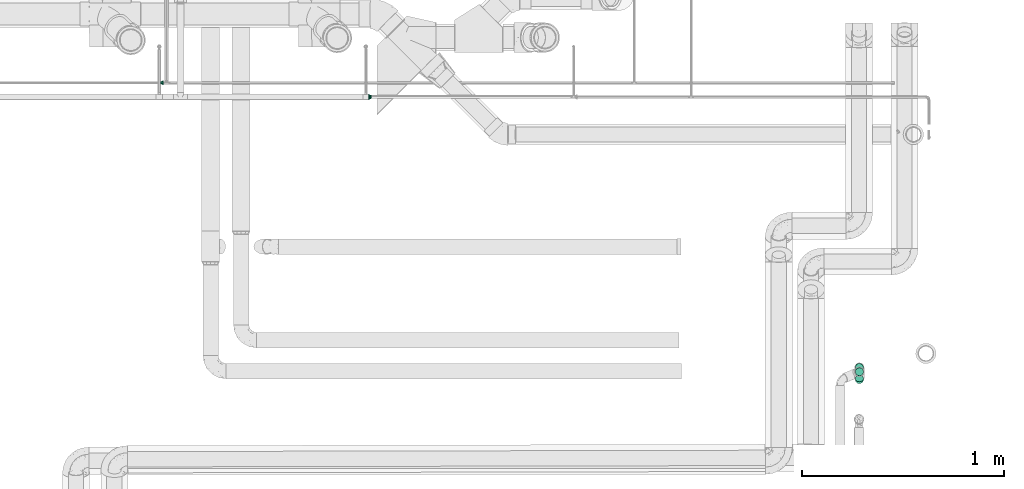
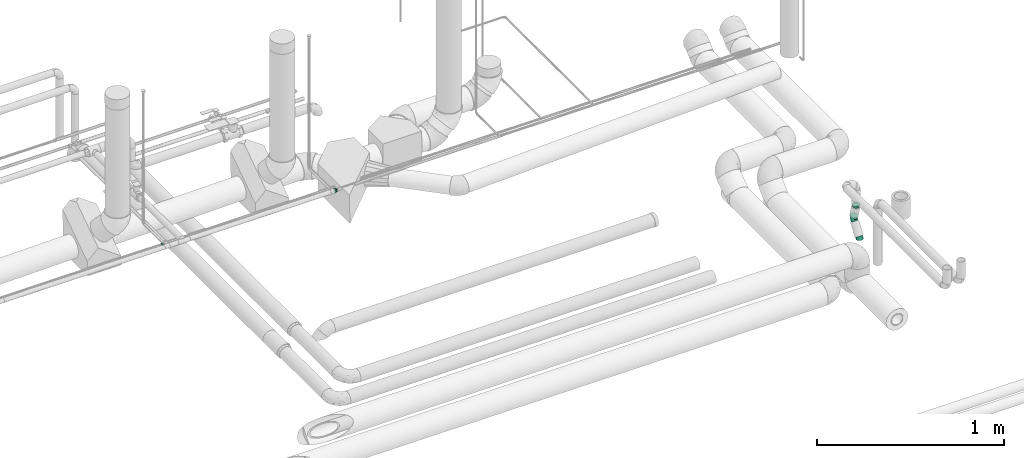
# One storey, part 149 of 156: 5 flow fittings.
"""IFC2X3 building model written with IfcOpenShell, lengths in millimetres."""

from ifc_helpers import new_model, entity, si_unit, converted_unit, derived_unit, direction, frame, origin_with_axes, place, context, subcontext, project, spatial, open_shell, surface_model, source, transform, mapped, type_object, element, save


model = new_model("IFC2X3")

# Units and contexts
model_context = context("Model", 3, precision=0.01, world=frame((0.0, 4.29681676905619e-09, 0.0)), true_north=direction((4.01073788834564e-13, 1.0)))
plan_context = context("Plan", 3, precision=0.01, world=frame((0.0, 4.29681676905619e-09, 0.0)), true_north=direction((4.01073788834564e-13, 1.0)))
body_context = subcontext(model_context, "Body", "Model", "MODEL_VIEW")
ifc_project = project(units=[converted_unit("PLANEANGLEUNIT", "DEGREE", entity("IfcPositiveLengthMeasure", 0.0174532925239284), si_unit("PLANEANGLEUNIT", "RADIAN"), dimensions=[0, 0, 0, 0, 0, 0, 0]), si_unit("AREAUNIT", "SQUARE_METRE"), si_unit("LENGTHUNIT", "METRE", prefix="MILLI"), si_unit("MASSUNIT", "GRAM", prefix="KILO"), si_unit("POWERUNIT", "WATT"), si_unit("PRESSUREUNIT", "PASCAL", prefix="KILO"), si_unit("FORCEUNIT", "NEWTON", prefix="KILO"), si_unit("ELECTRICVOLTAGEUNIT", "VOLT"), si_unit("ELECTRICCURRENTUNIT", "AMPERE"), si_unit("THERMODYNAMICTEMPERATUREUNIT", "DEGREE_CELSIUS"), si_unit("TIMEUNIT", "SECOND"), si_unit("VOLUMEUNIT", "CUBIC_METRE"), derived_unit("LINEARVELOCITYUNIT", [(si_unit("LENGTHUNIT", "METRE"), 1), (si_unit("TIMEUNIT", "SECOND"), -1)]), derived_unit("VOLUMETRICFLOWRATEUNIT", [(si_unit("VOLUMEUNIT", "CUBIC_METRE"), 1), (si_unit("TIMEUNIT", "SECOND"), -1)]), derived_unit("THERMALTRANSMITTANCEUNIT", [(si_unit("POWERUNIT", "WATT"), 1), (si_unit("THERMODYNAMICTEMPERATUREUNIT", "KELVIN"), -1), (si_unit("AREAUNIT", "SQUARE_METRE"), -1)]), derived_unit("SOUNDPRESSUREUNIT", [(si_unit("PRESSUREUNIT", "PASCAL"), 1)])], contexts=[model_context, plan_context])

# Site, building, storey
site_placement = place(None, frame((0.0, -4.29681676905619e-09, 0.0), z_axis=(0.0, 0.0, 1.0), x_axis=(1.0, 0.0, 0.0)))
site = spatial("IfcSite", under=ifc_project, at=site_placement, CompositionType="ELEMENT")
building_placement = place(site_placement, frame((0.0, 4.29681676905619e-09, 0.0), z_axis=(0.0, 0.0, 1.0), x_axis=(1.0, 0.0, 0.0)))
building = spatial("IfcBuilding", under=site, at=building_placement, Name="mc-building", CompositionType="ELEMENT")
storey_placement = place(building_placement, frame((0.0, 0.0, 205200.0), z_axis=(0.0, 0.0, 1.0), x_axis=(1.0, 0.0, 0.0)))
storey = spatial("IfcBuildingStorey", under=building, at=storey_placement, Name="Nivå D + 1,2 m", CompositionType="ELEMENT", Elevation=205200.0)

# Flow fittings
pipe_fitting_type_1 = type_object("IfcPipeFittingType", Name="magi_pipe_fe_reducer_centric_short_001", PredefinedType="TRANSITION")
shared_shape_1 = source(origin_with_axes(), body_context, "Body", "SurfaceModel", [
    surface_model("IfcShellBasedSurfaceModel", [(-2.0, 9.89949, 9.89949), (-2.0, 0.0, 14.0), (-2.0, 3.62347, 13.52296), (-2.0, 7.0, 12.12436), (-2.0, 12.12436, 7.0), (-2.0, 13.52296, 3.62347), (-2.0, -3.62347, 13.52296), (-2.0, -12.12436, -7.0), (-2.0, -9.89949, 9.89949), (-2.0, -7.0, 12.12436), (-2.0, -13.52296, 3.62347), (-2.0, -12.12436, 7.0), (-2.0, -14.0, 0.0), (-2.0, 13.52296, -3.62347), (-2.0, 9.89949, -9.89949), (-2.0, 12.12436, -7.0), (-2.0, 7.0, -12.12436), (-2.0, 3.62347, -13.52296), (-2.0, -7.0, -12.12436), (-2.0, -9.89949, -9.89949), (-2.0, -13.52296, -3.62347), (-2.0, 0.0, -14.0), (-2.0, -3.62347, -13.52296), (-2.0, 14.0, 0.0), (0.0, 3.62347, -13.52296), (0.0, 7.0, -12.12436), (0.0, 9.89949, -9.89949), (0.0, 12.12436, -7.0), (0.0, 13.52296, -3.62347), (0.0, -7.0, -12.12436), (0.0, -12.12436, -7.0), (0.0, 14.0, 0.0), (0.0, 0.0, -14.0), (0.0, -3.62347, -13.52296), (0.0, -9.89949, -9.89949), (0.0, -13.52296, -3.62347), (0.0, 13.52296, 3.62347), (0.0, 12.12436, 7.0), (0.0, 9.89949, 9.89949), (0.0, 0.0, 14.0), (0.0, 3.62347, 13.52296), (0.0, 7.0, 12.12436), (0.0, -3.62347, 13.52296), (0.0, -13.52296, 3.62347), (0.0, -9.89949, 9.89949), (0.0, -12.12436, 7.0), (0.0, -14.0, 0.0), (0.0, -7.0, 12.12436), (10.0, -4.5, -7.79423), (10.0, 4.5, -7.79423), (10.0, 4.5, 7.79423), (10.0, -4.5, 7.79423), (12.0, 0.0, -9.0), (12.0, -4.5, -7.79423), (12.0, -2.32937, -8.69333), (12.0, -6.36396, -6.36396), (12.0, -8.69333, -2.32937), (12.0, -7.79423, -4.5), (12.0, 4.5, 7.79423), (12.0, 7.79423, 4.5), (12.0, 6.36396, 6.36396), (12.0, 4.5, -7.79423), (12.0, 2.32937, -8.69333), (12.0, 8.69333, -2.32937), (12.0, 6.36396, -6.36396), (12.0, 7.79423, -4.5), (12.0, 9.0, 0.0), (12.0, 8.69333, 2.32937), (12.0, -9.0, 0.0), (12.0, 2.32937, 8.69333), (12.0, 0.0, 9.0), (12.0, -2.32937, 8.69333), (12.0, -8.69333, 2.32937), (12.0, -6.36396, 6.36396), (12.0, -7.79423, 4.5), (12.0, -4.5, 7.79423), (10.0, 0.0, 9.0), (10.0, 2.32937, 8.69333), (10.0, 7.79423, 4.5), (10.0, -9.0, 0.0), (10.0, 6.36396, 6.36396), (10.0, -8.69333, -2.32937), (10.0, -2.32937, 8.69333), (10.0, -6.36396, 6.36396), (10.0, -8.69333, 2.32937), (10.0, -7.79423, 4.5), (10.0, 8.69333, 2.32937), (10.0, 9.0, 0.0), (10.0, 2.32937, -8.69333), (10.0, 8.69333, -2.32937), (10.0, 6.36396, -6.36396), (10.0, 7.79423, -4.5), (10.0, -6.36396, -6.36396), (10.0, -7.79423, -4.5), (10.0, 0.0, -9.0), (10.0, -2.32937, -8.69333)], [open_shell([[[0, 1, 2]], [[0, 2, 3]], [[0, 4, 5]], [[0, 5, 1]], [[6, 1, 7]], [[6, 8, 9]], [[8, 6, 10]], [[8, 10, 11]], [[12, 10, 7]], [[7, 10, 6]], [[7, 1, 5]], [[7, 5, 13]], [[14, 13, 15]], [[14, 16, 17]], [[13, 14, 18]], [[17, 18, 14]], [[7, 18, 19]], [[20, 12, 7]], [[18, 21, 22]], [[18, 7, 13]], [[21, 18, 17]], [[5, 23, 13]], [[24, 25, 26]], [[24, 26, 27]], [[24, 28, 29]], [[28, 24, 27]], [[30, 28, 31]], [[32, 29, 33]], [[32, 24, 29]], [[29, 30, 34]], [[28, 30, 29]], [[31, 35, 30]], [[31, 36, 35]], [[36, 37, 38]], [[36, 38, 39]], [[40, 39, 38]], [[40, 38, 41]], [[36, 39, 42]], [[43, 44, 45]], [[42, 43, 46]], [[44, 42, 47]], [[42, 44, 43]], [[46, 36, 42]], [[36, 46, 35]], [[20, 35, 12]], [[7, 30, 20]], [[29, 19, 18]], [[7, 19, 34]], [[33, 18, 22]], [[20, 30, 35]], [[35, 46, 12]], [[33, 29, 18]], [[34, 19, 29]], [[34, 30, 7]], [[32, 33, 22]], [[22, 21, 32]], [[17, 24, 21]], [[16, 25, 17]], [[27, 14, 15]], [[16, 14, 26]], [[28, 15, 13]], [[16, 26, 25]], [[25, 24, 17]], [[31, 28, 13]], [[27, 15, 28]], [[27, 26, 14]], [[23, 31, 13]], [[21, 24, 32]], [[5, 36, 23]], [[4, 37, 5]], [[41, 0, 3]], [[4, 0, 38]], [[40, 3, 2]], [[5, 37, 36]], [[36, 31, 23]], [[40, 41, 3]], [[38, 0, 41]], [[38, 37, 4]], [[39, 40, 2]], [[2, 1, 39]], [[6, 42, 1]], [[9, 47, 6]], [[45, 8, 11]], [[9, 8, 44]], [[43, 11, 10]], [[9, 44, 47]], [[47, 42, 6]], [[46, 43, 10]], [[45, 11, 43]], [[45, 44, 8]], [[12, 46, 10]], [[1, 42, 39]], [[39, 38, 44]], [[46, 44, 38]], [[34, 46, 32]], [[26, 38, 31]], [[48, 32, 49]], [[50, 39, 51]], [[52, 53, 54]], [[55, 56, 57]], [[58, 59, 60]], [[38, 26, 46]], [[32, 46, 26]], [[61, 55, 62]], [[63, 61, 64]], [[55, 61, 63]], [[63, 64, 65]], [[59, 56, 63]], [[52, 62, 53]], [[53, 62, 55]], [[63, 56, 55]], [[63, 66, 67]], [[68, 56, 59]], [[58, 69, 70]], [[58, 70, 59]], [[71, 59, 70]], [[72, 73, 74]], [[73, 72, 68]], [[73, 71, 75]], [[73, 68, 59]], [[59, 71, 73]], [[59, 63, 67]], [[76, 77, 50]], [[76, 50, 78]], [[76, 78, 79]], [[78, 50, 80]], [[81, 79, 78]], [[82, 83, 51]], [[82, 76, 83]], [[83, 84, 85]], [[84, 83, 79]], [[76, 79, 83]], [[78, 86, 87]], [[88, 87, 89]], [[90, 89, 91]], [[49, 88, 89]], [[49, 89, 90]], [[87, 88, 48]], [[81, 92, 93]], [[81, 87, 92]], [[48, 94, 95]], [[48, 92, 87]], [[94, 48, 88]], [[87, 81, 78]], [[81, 56, 79]], [[93, 57, 81]], [[53, 92, 48]], [[92, 55, 93]], [[48, 95, 54]], [[81, 57, 56]], [[56, 68, 79]], [[54, 53, 48]], [[55, 92, 53]], [[55, 57, 93]], [[52, 54, 95]], [[95, 94, 52]], [[88, 62, 94]], [[49, 61, 88]], [[65, 90, 91]], [[49, 90, 64]], [[63, 91, 89]], [[49, 64, 61]], [[61, 62, 88]], [[66, 63, 89]], [[65, 91, 63]], [[65, 64, 90]], [[87, 66, 89]], [[94, 62, 52]], [[86, 67, 87]], [[78, 59, 86]], [[58, 80, 50]], [[78, 80, 60]], [[69, 50, 77]], [[86, 59, 67]], [[67, 66, 87]], [[69, 58, 50]], [[60, 80, 58]], [[60, 59, 78]], [[70, 69, 77]], [[77, 76, 70]], [[82, 71, 76]], [[51, 75, 82]], [[74, 83, 85]], [[51, 83, 73]], [[72, 85, 84]], [[51, 73, 75]], [[75, 71, 82]], [[68, 72, 84]], [[74, 85, 72]], [[74, 73, 83]], [[79, 68, 84]], [[76, 71, 70]], [[50, 51, 87]], [[87, 51, 48]], [[48, 49, 87]], [[48, 51, 79]], [[87, 49, 26]], [[26, 31, 87]], [[49, 32, 26]], [[48, 79, 34]], [[48, 34, 32]], [[34, 79, 46]], [[79, 51, 44]], [[44, 46, 79]], [[51, 39, 44]], [[50, 87, 38]], [[50, 38, 39]], [[38, 87, 31]]])]),
])
flow_fitting_1_placement = place(storey_placement, frame((327667.53293, 462313.63355, 4318.0), z_axis=(0.0, 0.0, 1.0), x_axis=(1.0, 0.0, 0.0)))
element("IfcFlowFitting", 1, at=flow_fitting_1_placement, inside=storey, type_object=pipe_fitting_type_1, Name="magi_pipe_fe_reducer_centric_short_001", context=body_context, shape_type="MappedRepresentation", body=[
    mapped(shared_shape_1, transform((0.0, 0.0, 0.0), scale=1.0)),
])
shared_shape_2 = source(origin_with_axes(), body_context, "Body", "SurfaceModel", [
    surface_model("IfcShellBasedSurfaceModel", [(-2.0, 2.76936, 10.33541), (-2.0, -10.33541, -2.76936), (-2.0, 0.0, 10.7), (-2.0, 5.35, 9.26647), (-2.0, 7.56604, 7.56604), (-2.0, 9.26647, 5.35), (-2.0, 10.33541, 2.76936), (-2.0, -10.33541, 2.76936), (-2.0, -2.76936, 10.33541), (-2.0, -7.56604, 7.56604), (-2.0, -5.35, 9.26647), (-2.0, -9.26647, 5.35), (-2.0, -10.7, 0.0), (-2.0, 10.33541, -2.76936), (-2.0, 7.56604, -7.56604), (-2.0, 9.26647, -5.35), (-2.0, 5.35, -9.26647), (-2.0, 2.76936, -10.33541), (-2.0, -7.56604, -7.56604), (-2.0, -9.26647, -5.35), (-2.0, -5.35, -9.26647), (-2.0, 0.0, -10.7), (-2.0, -2.76936, -10.33541), (-2.0, 10.7, 0.0), (0.0, 5.35, -9.26647), (0.0, 0.0, -10.7), (0.0, 2.76936, -10.33541), (0.0, 10.33541, -2.76936), (0.0, 7.56604, -7.56604), (0.0, -10.33541, -2.76936), (0.0, 9.26647, -5.35), (0.0, 0.0, 10.7), (0.0, -5.35, -9.26647), (0.0, -2.76936, -10.33541), (0.0, -7.56604, -7.56604), (0.0, -9.26647, -5.35), (0.0, 10.7, 0.0), (0.0, 10.33541, 2.76936), (0.0, 9.26647, 5.35), (0.0, 7.56604, 7.56604), (0.0, 2.76936, 10.33541), (0.0, 5.35, 9.26647), (0.0, -7.56604, 7.56604), (0.0, -10.33541, 2.76936), (0.0, -9.26647, 5.35), (0.0, -10.7, 0.0), (0.0, -2.76936, 10.33541), (0.0, -5.35, 9.26647), (11.4, 1.55291, -5.79555), (11.4, 3.0, -5.19615), (11.4, 4.24264, -4.24264), (11.4, -5.79555, -1.55291), (11.4, 5.79555, -1.55291), (11.4, 5.19615, -3.0), (11.4, -6.0, 0.0), (11.4, 0.0, -6.0), (11.4, -3.0, -5.19615), (11.4, -1.55291, -5.79555), (11.4, -5.19615, -3.0), (11.4, -4.24264, -4.24264), (11.4, 6.0, 0.0), (11.4, 5.79555, 1.55291), (11.4, 5.19615, 3.0), (11.4, 4.24264, 4.24264), (11.4, 1.55291, 5.79555), (11.4, 3.0, 5.19615), (11.4, 0.0, 6.0), (11.4, -5.79555, 1.55291), (11.4, -1.55291, 5.79555), (11.4, -5.19615, 3.0), (11.4, -3.0, 5.19615), (11.4, -4.24264, 4.24264), (9.4, 1.55291, 5.79555), (9.4, -5.19615, 3.0), (9.4, 0.0, 6.0), (9.4, 4.24264, 4.24264), (9.4, 3.0, 5.19615), (9.4, 5.19615, 3.0), (9.4, 5.79555, 1.55291), (9.4, -5.79555, -1.55291), (9.4, -5.79555, 1.55291), (9.4, -3.0, 5.19615), (9.4, -4.24264, 4.24264), (9.4, -1.55291, 5.79555), (9.4, -6.0, 0.0), (9.4, 5.79555, -1.55291), (9.4, 4.24264, -4.24264), (9.4, 5.19615, -3.0), (9.4, 3.0, -5.19615), (9.4, 1.55291, -5.79555), (9.4, -5.19615, -3.0), (9.4, -3.0, -5.19615), (9.4, -4.24264, -4.24264), (9.4, 0.0, -6.0), (9.4, -1.55291, -5.79555), (9.4, 6.0, 0.0)], [open_shell([[[0, 1, 2]], [[3, 1, 0]], [[4, 5, 6]], [[4, 6, 3]], [[7, 2, 1]], [[8, 9, 10]], [[8, 2, 9]], [[9, 7, 11]], [[2, 7, 9]], [[7, 1, 12]], [[3, 6, 1]], [[1, 6, 13]], [[14, 13, 15]], [[13, 16, 1]], [[16, 13, 14]], [[17, 1, 16]], [[1, 18, 19]], [[18, 1, 20]], [[20, 21, 22]], [[20, 1, 17]], [[17, 21, 20]], [[13, 6, 23]], [[24, 25, 26]], [[27, 24, 28]], [[29, 24, 27]], [[27, 28, 30]], [[31, 29, 27]], [[25, 32, 33]], [[25, 24, 32]], [[34, 29, 35]], [[29, 34, 32]], [[24, 29, 32]], [[27, 36, 37]], [[37, 38, 39]], [[37, 39, 40]], [[31, 27, 40]], [[40, 39, 41]], [[31, 42, 29]], [[43, 42, 44]], [[45, 29, 43]], [[42, 46, 47]], [[43, 29, 42]], [[46, 42, 31]], [[40, 27, 37]], [[1, 29, 12]], [[19, 35, 1]], [[32, 18, 20]], [[19, 18, 34]], [[33, 20, 22]], [[1, 35, 29]], [[29, 45, 12]], [[33, 32, 20]], [[34, 18, 32]], [[34, 35, 19]], [[25, 33, 22]], [[22, 21, 25]], [[17, 26, 21]], [[16, 24, 17]], [[30, 14, 15]], [[16, 14, 28]], [[27, 15, 13]], [[16, 28, 24]], [[24, 26, 17]], [[36, 27, 13]], [[30, 15, 27]], [[30, 28, 14]], [[23, 36, 13]], [[21, 26, 25]], [[6, 37, 23]], [[5, 38, 6]], [[41, 4, 3]], [[5, 4, 39]], [[40, 3, 0]], [[6, 38, 37]], [[37, 36, 23]], [[40, 41, 3]], [[39, 4, 41]], [[39, 38, 5]], [[31, 40, 0]], [[0, 2, 31]], [[8, 46, 2]], [[10, 47, 8]], [[44, 9, 11]], [[10, 9, 42]], [[43, 11, 7]], [[10, 42, 47]], [[47, 46, 8]], [[45, 43, 7]], [[44, 11, 43]], [[44, 42, 9]], [[12, 45, 7]], [[2, 46, 31]], [[41, 45, 47]], [[45, 41, 24]], [[24, 32, 45]], [[24, 41, 36]], [[48, 49, 50]], [[51, 48, 50]], [[50, 52, 51]], [[52, 50, 53]], [[52, 54, 51]], [[55, 56, 57]], [[55, 48, 56]], [[56, 58, 59]], [[58, 56, 51]], [[48, 51, 56]], [[52, 60, 54]], [[61, 62, 63]], [[61, 63, 64]], [[61, 64, 54]], [[64, 63, 65]], [[54, 64, 66]], [[67, 68, 69]], [[67, 54, 66]], [[69, 70, 71]], [[70, 69, 68]], [[66, 68, 67]], [[61, 54, 60]], [[72, 73, 74]], [[75, 72, 76]], [[75, 77, 78]], [[75, 78, 72]], [[72, 79, 80]], [[81, 73, 82]], [[73, 81, 83]], [[74, 73, 83]], [[72, 80, 73]], [[80, 79, 84]], [[72, 78, 79]], [[79, 78, 85]], [[86, 85, 87]], [[86, 88, 89]], [[85, 86, 79]], [[89, 79, 86]], [[90, 91, 92]], [[91, 90, 79]], [[91, 93, 94]], [[91, 79, 89]], [[89, 93, 91]], [[85, 78, 95]], [[79, 51, 84]], [[90, 58, 79]], [[56, 92, 91]], [[90, 92, 59]], [[57, 91, 94]], [[79, 58, 51]], [[51, 54, 84]], [[57, 56, 91]], [[59, 92, 56]], [[59, 58, 90]], [[55, 57, 94]], [[94, 93, 55]], [[89, 48, 93]], [[88, 49, 89]], [[53, 86, 87]], [[88, 86, 50]], [[52, 87, 85]], [[88, 50, 49]], [[49, 48, 89]], [[60, 52, 85]], [[53, 87, 52]], [[53, 50, 86]], [[95, 60, 85]], [[93, 48, 55]], [[78, 61, 95]], [[77, 62, 78]], [[65, 75, 76]], [[77, 75, 63]], [[64, 76, 72]], [[78, 62, 61]], [[61, 60, 95]], [[64, 65, 76]], [[63, 75, 65]], [[63, 62, 77]], [[66, 64, 72]], [[72, 74, 66]], [[83, 68, 74]], [[81, 70, 83]], [[69, 82, 73]], [[81, 82, 71]], [[67, 73, 80]], [[81, 71, 70]], [[70, 68, 83]], [[54, 67, 80]], [[69, 73, 67]], [[69, 71, 82]], [[84, 54, 80]], [[74, 68, 66]], [[76, 81, 95]], [[95, 81, 91]], [[91, 88, 95]], [[91, 81, 84]], [[95, 88, 36]], [[24, 36, 88]], [[88, 91, 24]], [[91, 84, 32]], [[45, 32, 84]], [[91, 32, 24]], [[84, 81, 45]], [[47, 45, 81]], [[81, 76, 47]], [[76, 95, 41]], [[36, 41, 95]], [[76, 41, 47]]])]),
])
flow_fitting_2_placement = place(storey_placement, frame((326647.49724, 462383.7286, 4285.29988999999), z_axis=(0.0, 0.0, 1.0), x_axis=(-1.0, 0.0, 0.0)))
element("IfcFlowFitting", 2, at=flow_fitting_2_placement, inside=storey, type_object=pipe_fitting_type_1, Name="magi_pipe_fe_reducer_centric_short_001", context=body_context, shape_type="MappedRepresentation", body=[
    mapped(shared_shape_2, transform((0.0, 0.0, 0.0), scale=1.0)),
])
pipe_fitting_type_2 = type_object("IfcPipeFittingType", Name="magi_pipe_elbow_short_001", PredefinedType="BEND")
shared_shape_3 = source(origin_with_axes(), body_context, "Body", "SurfaceModel", [
    surface_model("IfcShellBasedSurfaceModel", [(-7.96036, 5.17638, -19.31852), (-7.96036, 0.0, -20.0), (-7.96036, 14.14214, -14.14214), (-7.96036, 10.0, -17.32051), (-7.96036, 19.31852, -5.17638), (-7.96036, 17.32051, -10.0), (-7.96036, -14.14214, -14.14214), (-7.96036, -20.0, 0.0), (-7.96036, 17.32051, 10.0), (-7.96036, -10.0, -17.32051), (-7.96036, -5.17638, -19.31852), (-7.96036, -19.31852, -5.17638), (-7.96036, -17.32051, -10.0), (-7.96036, 20.0, 0.0), (-7.96036, 19.31852, 5.17638), (-7.96036, 5.17638, 19.31852), (-7.96036, 10.0, 17.32051), (-7.96036, 14.14214, 14.14214), (-7.96036, -14.14214, 14.14214), (-7.96036, -19.31852, 5.17638), (-7.96036, -17.32051, 10.0), (-7.96036, -10.0, 17.32051), (-7.96036, -5.17638, 19.31852), (-7.96036, 0.0, 20.0), (1.93946, 16.11229, -14.14214), (7.35385, 3.04767, -20.0), (5.37204, 7.82965, -19.31852), (3.5253, 12.28575, -17.32051), (0.7226, 19.0485, -10.0), (-0.04235, 20.89427, -5.17638), (12.76824, -10.01696, -14.14214), (15.01095, -15.4285, 0.0), (9.33565, -1.73432, -19.31852), (11.1824, -6.19042, -17.32051), (13.9851, -12.95316, -10.0), (14.75004, -14.79894, -5.17638), (0.7226, 19.0485, 10.0), (-0.04235, 20.89427, 5.17638), (5.37204, 7.82965, 19.31852), (1.93946, 16.11229, 14.14214), (3.5253, 12.28575, 17.32051), (9.33565, -1.73432, 19.31852), (13.9851, -12.95316, 10.0), (14.75004, -14.79894, 5.17638), (12.76824, -10.01696, 14.14214), (11.1824, -6.19042, 17.32051), (7.35385, 3.04767, 20.0), (-0.30326, 21.52383, 0.0), (2.26898, -11.4014, 15.68461), (1.83972, -15.17467, 11.94883), (3.4781, -17.47709, 7.34051), (1.39045, -6.98686, 18.37006), (0.4059, -2.03962, 19.79387), (-0.61703, 3.10053, 19.85825), (-4.05673, 20.38466, 0.0), (0.18948, -19.08857, 3.73602), (-1.60811, 8.08057, 18.55878), (3.75053, -18.84603, 0.0), (8.06939, -17.54394, 3.24557), (0.4059, -2.03962, -19.79387), (1.39045, -6.98686, -18.37006), (4.11015, -14.72283, -11.94883), (3.4781, -17.47709, -7.34051), (-0.61703, 3.10053, -19.85825), (2.26898, -11.4014, -15.68461), (7.13312, -17.70672, -3.73602), (-1.60811, 8.08057, -18.55878), (-0.73778, -19.29665, -3.24557)], [open_shell([[[0, 1, 2]], [[3, 0, 2]], [[4, 5, 2]], [[6, 2, 1]], [[2, 7, 8]], [[9, 6, 10]], [[6, 1, 10]], [[11, 7, 12]], [[6, 12, 7]], [[6, 7, 2]], [[13, 4, 2]], [[8, 14, 13]], [[7, 15, 8]], [[8, 15, 16]], [[17, 8, 16]], [[18, 15, 7]], [[19, 20, 7]], [[7, 20, 18]], [[21, 22, 18]], [[22, 15, 18]], [[15, 22, 23]], [[8, 13, 2]], [[24, 25, 26]], [[24, 26, 27]], [[24, 28, 29]], [[25, 24, 30]], [[31, 24, 29]], [[32, 30, 33]], [[32, 25, 30]], [[34, 31, 35]], [[31, 34, 30]], [[24, 31, 30]], [[29, 36, 31]], [[37, 36, 29]], [[38, 31, 36]], [[39, 40, 38]], [[39, 38, 36]], [[31, 38, 41]], [[31, 42, 43]], [[44, 42, 31]], [[44, 41, 45]], [[41, 44, 31]], [[38, 46, 41]], [[47, 37, 29]], [[48, 18, 49]], [[21, 18, 48]], [[18, 20, 49]], [[43, 42, 50]], [[20, 50, 49]], [[22, 21, 51]], [[48, 51, 21]], [[23, 22, 52]], [[23, 53, 15]], [[42, 49, 50]], [[50, 20, 19]], [[44, 45, 48]], [[8, 17, 36]], [[16, 39, 17]], [[41, 46, 52]], [[51, 52, 22]], [[46, 38, 53]], [[54, 14, 37]], [[55, 50, 19]], [[54, 13, 14]], [[37, 14, 8]], [[16, 56, 40]], [[16, 15, 56]], [[52, 53, 23]], [[7, 57, 55]], [[45, 41, 51]], [[52, 51, 41]], [[45, 51, 48]], [[53, 52, 46]], [[44, 48, 49]], [[44, 49, 42]], [[31, 43, 58]], [[36, 37, 8]], [[47, 54, 37]], [[58, 55, 57]], [[7, 55, 19]], [[40, 56, 38]], [[50, 58, 43]], [[16, 40, 39]], [[36, 17, 39]], [[53, 38, 56]], [[31, 58, 57]], [[50, 55, 58]], [[53, 56, 15]], [[1, 59, 10]], [[60, 59, 32]], [[12, 61, 62]], [[1, 0, 63]], [[24, 2, 5]], [[64, 60, 33]], [[2, 24, 3]], [[65, 62, 35]], [[4, 29, 5]], [[30, 34, 61]], [[59, 63, 25]], [[3, 66, 0]], [[7, 11, 67]], [[62, 65, 67]], [[64, 6, 9]], [[63, 66, 26]], [[11, 12, 62]], [[12, 6, 61]], [[60, 9, 10]], [[67, 65, 57]], [[7, 67, 57]], [[4, 13, 54]], [[54, 47, 29]], [[60, 10, 59]], [[29, 28, 5]], [[24, 5, 28]], [[6, 64, 61]], [[27, 26, 66]], [[64, 9, 60]], [[34, 62, 61]], [[3, 24, 27]], [[59, 1, 63]], [[25, 63, 26]], [[60, 32, 33]], [[63, 0, 66]], [[27, 66, 3]], [[64, 33, 30]], [[34, 35, 62]], [[62, 67, 11]], [[31, 57, 65]], [[30, 61, 64]], [[31, 65, 35]], [[32, 59, 25]], [[4, 54, 29]]])]),
])
flow_fitting_3_placement = place(storey_placement, frame((330096.89132, 460914.80532, 4007.70587000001), z_axis=(-1.0, 0.0, 0.0), x_axis=(0.0, 0.216258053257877, 0.976336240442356)))
element("IfcFlowFitting", 3, at=flow_fitting_3_placement, inside=storey, type_object=pipe_fitting_type_2, Name="magi_pipe_elbow_short_001", context=body_context, shape_type="MappedRepresentation", body=[
    mapped(shared_shape_3, transform((0.0, 0.0, 0.0), scale=1.0)),
])
shared_shape_4 = source(origin_with_axes(), body_context, "Body", "SurfaceModel", [
    surface_model("IfcShellBasedSurfaceModel", [(-18.65231, 5.17638, -19.31852), (-18.65231, 0.0, -20.0), (-18.65231, 14.14214, -14.14214), (-18.65231, 10.0, -17.32051), (-18.65231, 19.31852, -5.17638), (-18.65231, 17.32051, -10.0), (-18.65231, -14.14214, -14.14214), (-18.65231, -20.0, 0.0), (-18.65231, 17.32051, 10.0), (-18.65231, -10.0, -17.32051), (-18.65231, -5.17638, -19.31852), (-18.65231, -19.31852, -5.17638), (-18.65231, -17.32051, -10.0), (-18.65231, 20.0, 0.0), (-18.65231, 19.31852, 5.17638), (-18.65231, 5.17638, 19.31852), (-18.65231, 10.0, 17.32051), (-18.65231, 14.14214, 14.14214), (-18.65231, -14.14214, 14.14214), (-18.65231, -19.31852, 5.17638), (-18.65231, -17.32051, 10.0), (-18.65231, -10.0, 17.32051), (-18.65231, -5.17638, 19.31852), (-18.65231, 0.0, 20.0), (1.15597, 23.37889, -14.14214), (11.98947, 14.2885, -20.0), (8.02413, 17.61581, -19.31852), (4.32903, 20.71637, -17.32051), (-1.27881, 25.4219, -10.0), (-2.80937, 26.7062, -5.17638), (22.82298, 5.19811, -14.14214), (27.31036, 1.43274, 0.0), (15.95481, 10.96118, -19.31852), (19.64992, 7.86062, -17.32051), (25.25775, 3.15509, -10.0), (26.78831, 1.87079, -5.17638), (8.02413, 17.61581, 19.31852), (-2.80937, 26.7062, 5.17638), (-1.27881, 25.4219, 10.0), (4.32903, 20.71637, 17.32051), (1.15597, 23.37889, 14.14214), (15.95481, 10.96118, 19.31852), (26.78831, 1.87079, 5.17638), (22.82298, 5.19811, 14.14214), (25.25775, 3.15509, 10.0), (19.64992, 7.86062, 17.32051), (11.98947, 14.2885, 20.0), (-3.33142, 27.14425, 0.0), (-8.84617, -7.2275, 18.22602), (-5.66104, -11.19838, 15.35006), (2.01147, -4.31361, 17.91327), (-4.78642, -17.14546, 6.8135), (11.2228, 2.13081, 18.22602), (12.2173, -2.86158, 15.35006), (-7.43469, -1.87718, 19.71683), (-9.39982, 8.33937, 18.72935), (-2.36256, 5.06652, 19.94699), (-11.16344, 2.83737, 19.89046), (5.00217, 10.37552, 19.89046), (-8.35254, -15.30535, 11.65049), (5.06039, -11.56932, 10.91355), (-9.42846, 20.21939, 8.34787), (-10.76993, 16.76994, 12.67709), (-13.36624, 12.34743, 16.11382), (22.13909, -2.10309, 7.29376), (21.52085, -4.16979, 3.41444), (-4.26671, 20.25978, 12.54774), (6.19414, -13.62292, 5.93339), (-8.70793, 22.11731, 4.27257), (-6.56554, 14.07984, 16.43271), (-5.97376, -17.18923, 0.0), (-0.86702, 18.17591, 16.11382), (6.21693, 4.48867, 19.71683), (17.09349, -3.43968, 11.65049), (-0.14236, 12.71985, 18.72264), (15.98511, -7.52743, 6.7961), (6.70479, -14.37847, 0.0), (17.00757, -6.47286, 0.0), (0.36552, -15.78385, 0.0), (-10.19994, 21.87384, 0.0), (3.63514, -7.79559, 15.42009), (-0.75286, 1.61452, 19.86102), (-7.43469, -1.87718, -19.71683), (5.06039, -11.56932, -10.91355), (15.98511, -7.52743, -6.7961), (6.19413, -13.62292, -5.93339), (6.21693, 4.48867, -19.71683), (-11.16344, 2.83737, -19.89046), (-12.7773, 16.29122, -12.54774), (12.2173, -2.86158, -15.35006), (-5.92374, 19.02975, -12.67709), (-9.42846, 20.21939, -8.34787), (17.09349, -3.43968, -11.65049), (-11.3455, 20.88739, -4.27257), (-0.34624, 12.56112, -18.72935), (-4.78642, -17.14546, -6.8135), (-9.65246, 8.28522, -18.72264), (-2.36256, 5.06652, -19.94699), (-8.35254, -15.30535, -11.65049), (-5.66104, -11.19838, -15.35006), (3.63514, -7.79559, -15.42009), (-8.84617, -7.2275, -18.22602), (-0.75286, 1.61452, -19.86102), (2.01147, -4.31361, -17.91327), (11.85618, -10.42566, 0.0), (11.2228, 2.13081, -18.22602), (-0.86702, 18.17591, -16.11382), (-6.56554, 14.07984, -16.43271), (-13.36624, 12.34743, -16.11382), (22.13909, -2.10309, -7.29376), (21.52085, -4.16979, -3.41444), (5.00217, 10.37552, -19.89046)], [open_shell([[[0, 1, 2]], [[3, 0, 2]], [[4, 5, 2]], [[6, 2, 1]], [[2, 7, 8]], [[9, 6, 10]], [[6, 1, 10]], [[11, 7, 12]], [[6, 12, 7]], [[6, 7, 2]], [[13, 4, 2]], [[8, 14, 13]], [[7, 15, 8]], [[8, 15, 16]], [[17, 8, 16]], [[18, 15, 7]], [[19, 20, 7]], [[7, 20, 18]], [[21, 22, 18]], [[22, 15, 18]], [[15, 22, 23]], [[8, 13, 2]], [[24, 25, 26]], [[24, 26, 27]], [[24, 28, 29]], [[25, 24, 30]], [[31, 24, 29]], [[32, 30, 33]], [[32, 25, 30]], [[34, 31, 35]], [[31, 34, 30]], [[24, 31, 30]], [[29, 36, 31]], [[37, 38, 29]], [[38, 36, 29]], [[39, 36, 38]], [[39, 38, 40]], [[31, 36, 41]], [[42, 43, 44]], [[42, 31, 43]], [[43, 41, 45]], [[41, 43, 31]], [[36, 46, 41]], [[47, 37, 29]], [[48, 49, 50]], [[19, 51, 20]], [[21, 18, 49]], [[45, 52, 53]], [[23, 22, 54]], [[22, 21, 48]], [[16, 15, 55]], [[56, 57, 54]], [[23, 57, 15]], [[46, 36, 58]], [[59, 60, 49]], [[45, 41, 52]], [[61, 8, 62]], [[63, 17, 16]], [[42, 64, 65]], [[61, 66, 38]], [[60, 51, 67]], [[61, 68, 14]], [[64, 42, 44]], [[13, 14, 68]], [[14, 8, 61]], [[18, 20, 59]], [[69, 63, 55]], [[19, 70, 51]], [[19, 7, 70]], [[39, 40, 71]], [[46, 58, 72]], [[43, 45, 53]], [[52, 72, 50]], [[46, 72, 41]], [[42, 65, 31]], [[43, 53, 73]], [[56, 58, 74]], [[73, 44, 43]], [[74, 39, 71]], [[75, 76, 77]], [[51, 70, 78]], [[57, 55, 15]], [[68, 61, 37]], [[79, 68, 47]], [[73, 60, 75]], [[49, 80, 50]], [[81, 50, 72]], [[36, 39, 74]], [[38, 37, 61]], [[62, 66, 61]], [[48, 54, 22]], [[40, 38, 66]], [[69, 55, 74]], [[8, 17, 62]], [[54, 81, 56]], [[59, 49, 18]], [[56, 74, 55]], [[80, 60, 53]], [[20, 51, 59]], [[60, 59, 51]], [[60, 73, 53]], [[64, 73, 75]], [[63, 62, 17]], [[69, 71, 66]], [[49, 48, 21]], [[54, 48, 50]], [[72, 52, 41]], [[53, 52, 50]], [[54, 57, 23]], [[55, 57, 56]], [[74, 58, 36]], [[72, 58, 56]], [[67, 75, 60]], [[78, 76, 67]], [[69, 66, 62]], [[55, 63, 16]], [[62, 63, 69]], [[66, 71, 40]], [[74, 71, 69]], [[73, 64, 44]], [[65, 75, 77]], [[75, 65, 64]], [[31, 65, 77]], [[60, 80, 49]], [[53, 50, 80]], [[47, 68, 37]], [[68, 79, 13]], [[50, 81, 54]], [[72, 56, 81]], [[78, 67, 51]], [[76, 75, 67]], [[82, 10, 1]], [[83, 84, 85]], [[25, 32, 86]], [[0, 87, 1]], [[5, 88, 2]], [[33, 30, 89]], [[90, 88, 91]], [[30, 92, 89]], [[4, 93, 91]], [[27, 26, 94]], [[70, 11, 95]], [[3, 96, 0]], [[85, 70, 95]], [[97, 96, 94]], [[7, 11, 70]], [[98, 6, 99]], [[6, 9, 99]], [[100, 83, 99]], [[98, 12, 6]], [[12, 95, 11]], [[101, 9, 10]], [[98, 83, 95]], [[102, 103, 82]], [[29, 28, 91]], [[13, 79, 93]], [[84, 77, 104]], [[47, 29, 93]], [[105, 86, 32]], [[24, 27, 106]], [[91, 5, 4]], [[28, 90, 91]], [[9, 101, 99]], [[107, 106, 94]], [[87, 82, 1]], [[107, 94, 96]], [[2, 108, 3]], [[84, 109, 110]], [[25, 111, 26]], [[105, 32, 33]], [[88, 108, 2]], [[30, 34, 92]], [[89, 103, 105]], [[89, 92, 83]], [[28, 24, 90]], [[31, 77, 110]], [[101, 82, 103]], [[111, 94, 26]], [[34, 35, 109]], [[89, 100, 103]], [[111, 86, 97]], [[97, 87, 96]], [[29, 91, 93]], [[96, 3, 108]], [[86, 102, 97]], [[109, 92, 34]], [[83, 92, 84]], [[83, 98, 99]], [[95, 12, 98]], [[106, 90, 24]], [[107, 108, 88]], [[82, 101, 10]], [[99, 101, 103]], [[89, 105, 33]], [[86, 105, 103]], [[96, 87, 0]], [[82, 87, 97]], [[86, 111, 25]], [[94, 111, 97]], [[91, 88, 5]], [[107, 88, 90]], [[85, 95, 83]], [[104, 76, 85]], [[96, 108, 107]], [[94, 106, 27]], [[90, 106, 107]], [[110, 109, 35]], [[92, 109, 84]], [[31, 110, 35]], [[84, 110, 77]], [[83, 100, 89]], [[99, 103, 100]], [[13, 93, 4]], [[93, 79, 47]], [[103, 102, 86]], [[82, 97, 102]], [[104, 85, 84]], [[70, 85, 76]]])]),
])
flow_fitting_4_placement = place(storey_placement, frame((330096.89132, 460978.98711, 4099.36696000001), z_axis=(1.0, 0.0, 0.0), x_axis=(0.0, 0.573576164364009, 0.819152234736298)))
element("IfcFlowFitting", 4, at=flow_fitting_4_placement, inside=storey, type_object=pipe_fitting_type_2, Name="magi_pipe_elbow_short_001", context=body_context, shape_type="MappedRepresentation", body=[
    mapped(shared_shape_4, transform((0.0, 0.0, 0.0), scale=1.0)),
])
shared_shape_5 = source(origin_with_axes(), body_context, "Body", "SurfaceModel", [
    surface_model("IfcShellBasedSurfaceModel", [(-5.2661, 5.17638, -19.31852), (-5.2661, 0.0, -20.0), (-5.2661, 14.14214, -14.14214), (-5.2661, 10.0, -17.32051), (-5.2661, 19.31852, -5.17638), (-5.2661, 17.32051, -10.0), (-5.2661, -14.14214, -14.14214), (-5.2661, -20.0, 0.0), (-5.2661, 17.32051, 10.0), (-5.2661, -10.0, -17.32051), (-5.2661, -5.17638, -19.31852), (-5.2661, -19.31852, -5.17638), (-5.2661, -17.32051, -10.0), (-5.2661, 20.0, 0.0), (-5.2661, 19.31852, 5.17638), (-5.2661, 5.17638, 19.31852), (-5.2661, 10.0, 17.32051), (-5.2661, 14.14214, 14.14214), (-5.2661, -14.14214, 14.14214), (-5.2661, -19.31852, 5.17638), (-5.2661, -17.32051, 10.0), (-5.2661, -10.0, 17.32051), (-5.2661, -5.17638, 19.31852), (-5.2661, 0.0, 20.0), (5.08666, 1.36297, -20.0), (3.74692, 6.36297, -19.31852), (2.49847, 11.02223, -17.32051), (9.56954, -15.36736, -10.0), (1.42641, 15.02322, -14.14214), (0.60378, 18.09329, -10.0), (0.08666, 20.02322, -5.17638), (10.26304, -17.95555, 0.0), (6.42641, -3.63703, -19.31852), (8.74692, -12.29729, -14.14214), (7.67485, -8.29629, -17.32051), (10.08666, -17.29729, -5.17638), (8.74692, -12.29729, 14.14214), (-0.08972, 20.68148, 0.0), (0.08666, 20.02322, 5.17638), (0.60378, 18.09329, 10.0), (2.49847, 11.02223, 17.32051), (3.74692, 6.36297, 19.31852), (1.42641, 15.02322, 14.14214), (9.56954, -15.36736, 10.0), (10.08666, -17.29729, 5.17638), (6.42641, -3.63703, 19.31852), (7.67485, -8.29629, 17.32051), (5.08666, 1.36297, 20.0), (-2.65558, 20.1711, 0.0), (2.56547, -19.48669, 0.0)], [open_shell([[[0, 1, 2]], [[3, 0, 2]], [[4, 5, 2]], [[6, 2, 1]], [[2, 7, 8]], [[9, 6, 10]], [[6, 1, 10]], [[11, 7, 12]], [[6, 12, 7]], [[6, 7, 2]], [[13, 4, 2]], [[8, 14, 13]], [[7, 15, 8]], [[8, 15, 16]], [[17, 8, 16]], [[18, 15, 7]], [[19, 20, 7]], [[7, 20, 18]], [[21, 22, 18]], [[22, 15, 18]], [[15, 22, 23]], [[8, 13, 2]], [[24, 25, 26]], [[27, 24, 26]], [[28, 29, 30]], [[31, 26, 28]], [[31, 28, 30]], [[32, 33, 34]], [[33, 32, 27]], [[27, 31, 35]], [[27, 32, 24]], [[26, 31, 27]], [[30, 36, 31]], [[37, 38, 39]], [[36, 37, 39]], [[40, 41, 39]], [[40, 39, 42]], [[36, 39, 41]], [[43, 44, 31]], [[36, 43, 31]], [[36, 45, 46]], [[36, 41, 45]], [[47, 45, 41]], [[30, 37, 36]], [[20, 36, 18]], [[46, 21, 18]], [[45, 22, 21]], [[47, 23, 22]], [[15, 23, 41]], [[43, 20, 19]], [[8, 17, 39]], [[16, 42, 17]], [[48, 14, 38]], [[48, 13, 14]], [[38, 14, 8]], [[40, 16, 15]], [[19, 7, 49]], [[46, 45, 21]], [[18, 36, 46]], [[45, 47, 22]], [[43, 19, 44]], [[20, 43, 36]], [[49, 31, 44]], [[39, 38, 8]], [[37, 48, 38]], [[40, 15, 41]], [[16, 40, 42]], [[39, 17, 42]], [[41, 23, 47]], [[19, 49, 44]], [[1, 32, 10]], [[0, 24, 1]], [[5, 29, 2]], [[2, 26, 3]], [[0, 3, 26]], [[5, 4, 30]], [[49, 7, 11]], [[35, 49, 11]], [[33, 6, 9]], [[11, 12, 35]], [[6, 27, 12]], [[34, 9, 10]], [[4, 13, 48]], [[48, 37, 30]], [[30, 29, 5]], [[26, 2, 28]], [[25, 0, 26]], [[2, 29, 28]], [[25, 24, 0]], [[34, 10, 32]], [[33, 9, 34]], [[12, 27, 35]], [[35, 31, 49]], [[27, 6, 33]], [[24, 32, 1]], [[4, 48, 30]]])]),
])
flow_fitting_5_placement = place(storey_placement, frame((330096.89132, 460952.5182, 4198.15025000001), z_axis=(-1.0, 0.0, 0.0), x_axis=(0.0, -0.258818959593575, 0.965925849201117)))
element("IfcFlowFitting", 5, at=flow_fitting_5_placement, inside=storey, type_object=pipe_fitting_type_2, Name="magi_pipe_elbow_short_001", context=body_context, shape_type="MappedRepresentation", body=[
    mapped(shared_shape_5, transform((0.0, 0.0, 0.0), scale=1.0)),
])

save(model, "model.ifc")
